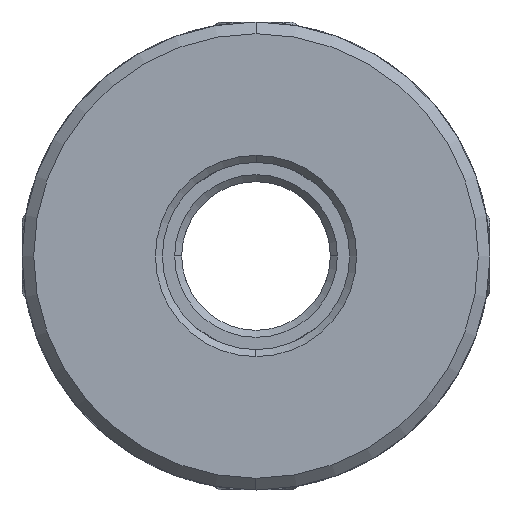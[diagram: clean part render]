
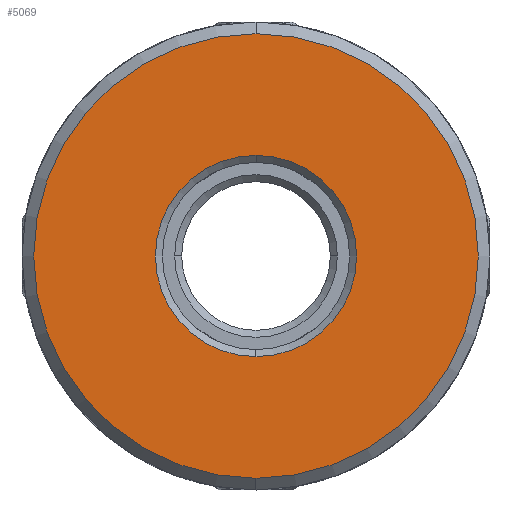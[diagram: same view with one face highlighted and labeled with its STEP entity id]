
A CAD part, front view. The second image highlights one B-rep face of the part: STEP entity #5069.
In plain terms, the highlighted planar face has unit normal (0, -1, 0).
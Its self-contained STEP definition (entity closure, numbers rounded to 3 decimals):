
#55 = DIRECTION ( 'NONE',  ( 0., 1., 0. ) ) ;
#95 = CIRCLE ( 'NONE', #5429, 9.5 ) ;
#110 = CARTESIAN_POINT ( 'NONE',  ( 0., -23., 0. ) ) ;
#252 = DIRECTION ( 'NONE',  ( 0., 0., -1. ) ) ;
#649 = DIRECTION ( 'NONE',  ( 0., 0., -1. ) ) ;
#1341 = CARTESIAN_POINT ( 'NONE',  ( 0., -23., 0. ) ) ;
#1435 = VERTEX_POINT ( 'NONE', #7199 ) ;
#1743 = CARTESIAN_POINT ( 'NONE',  ( 0., -23., -9.5 ) ) ;
#1748 = CIRCLE ( 'NONE', #1934, 9.5 ) ;
#1934 = AXIS2_PLACEMENT_3D ( 'NONE', #110, #8393, #6855 ) ;
#2037 = ORIENTED_EDGE ( 'NONE', *, *, #9525, .T. ) ;
#2388 = FACE_OUTER_BOUND ( 'NONE', #8891, .T. ) ;
#2651 = VERTEX_POINT ( 'NONE', #1743 ) ;
#2918 = CARTESIAN_POINT ( 'NONE',  ( 0., -23., 4.3 ) ) ;
#3005 = DIRECTION ( 'NONE',  ( 0., 0., -1. ) ) ;
#3270 = AXIS2_PLACEMENT_3D ( 'NONE', #9156, #3735, #3005 ) ;
#3479 = CIRCLE ( 'NONE', #3270, 4.3 ) ;
#3675 = DIRECTION ( 'NONE',  ( 0., -1., 0. ) ) ;
#3735 = DIRECTION ( 'NONE',  ( 0., 1., 0. ) ) ;
#4033 = VERTEX_POINT ( 'NONE', #5070 ) ;
#4108 = EDGE_CURVE ( 'NONE', #2651, #4033, #95, .T. ) ;
#5051 = AXIS2_PLACEMENT_3D ( 'NONE', #7627, #55, #252 ) ;
#5069 = ADVANCED_FACE ( 'NONE', ( #8881, #2388 ), #6226, .F. ) ;
#5070 = CARTESIAN_POINT ( 'NONE',  ( 0., -23., 9.5 ) ) ;
#5186 = DIRECTION ( 'NONE',  ( 0., 1., 0. ) ) ;
#5381 = ORIENTED_EDGE ( 'NONE', *, *, #4108, .T. ) ;
#5429 = AXIS2_PLACEMENT_3D ( 'NONE', #1341, #3675, #7407 ) ;
#5593 = EDGE_CURVE ( 'NONE', #8593, #1435, #3479, .T. ) ;
#6226 = PLANE ( 'NONE',  #5051 ) ;
#6791 = ORIENTED_EDGE ( 'NONE', *, *, #9443, .T. ) ;
#6855 = DIRECTION ( 'NONE',  ( 0., 0., -1. ) ) ;
#7199 = CARTESIAN_POINT ( 'NONE',  ( 0., -23., -4.3 ) ) ;
#7342 = CIRCLE ( 'NONE', #7660, 4.3 ) ;
#7407 = DIRECTION ( 'NONE',  ( 0., 0., -1. ) ) ;
#7627 = CARTESIAN_POINT ( 'NONE',  ( 50., -23., -15.365 ) ) ;
#7660 = AXIS2_PLACEMENT_3D ( 'NONE', #9720, #5186, #649 ) ;
#8074 = EDGE_LOOP ( 'NONE', ( #9028, #6791 ) ) ;
#8393 = DIRECTION ( 'NONE',  ( 0., -1., 0. ) ) ;
#8593 = VERTEX_POINT ( 'NONE', #2918 ) ;
#8881 = FACE_BOUND ( 'NONE', #8074, .T. ) ;
#8891 = EDGE_LOOP ( 'NONE', ( #5381, #2037 ) ) ;
#9028 = ORIENTED_EDGE ( 'NONE', *, *, #5593, .T. ) ;
#9156 = CARTESIAN_POINT ( 'NONE',  ( 0., -23., 0. ) ) ;
#9443 = EDGE_CURVE ( 'NONE', #1435, #8593, #7342, .T. ) ;
#9525 = EDGE_CURVE ( 'NONE', #4033, #2651, #1748, .T. ) ;
#9720 = CARTESIAN_POINT ( 'NONE',  ( 0., -23., 0. ) ) ;
